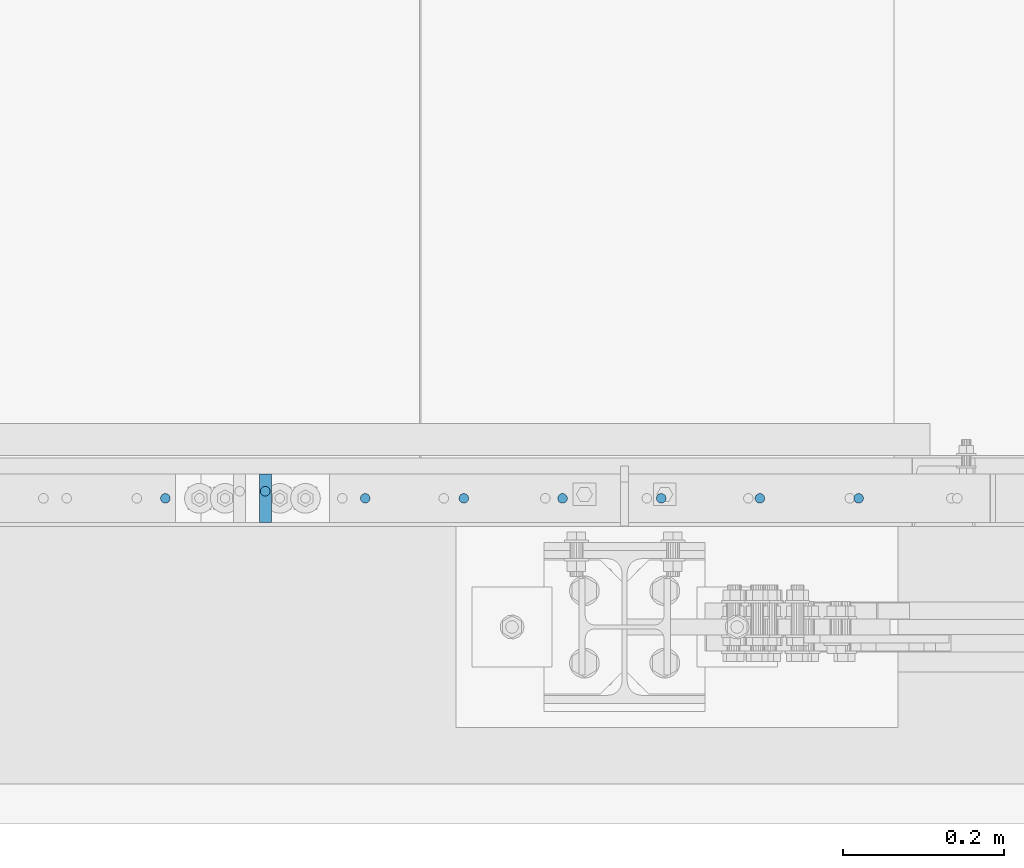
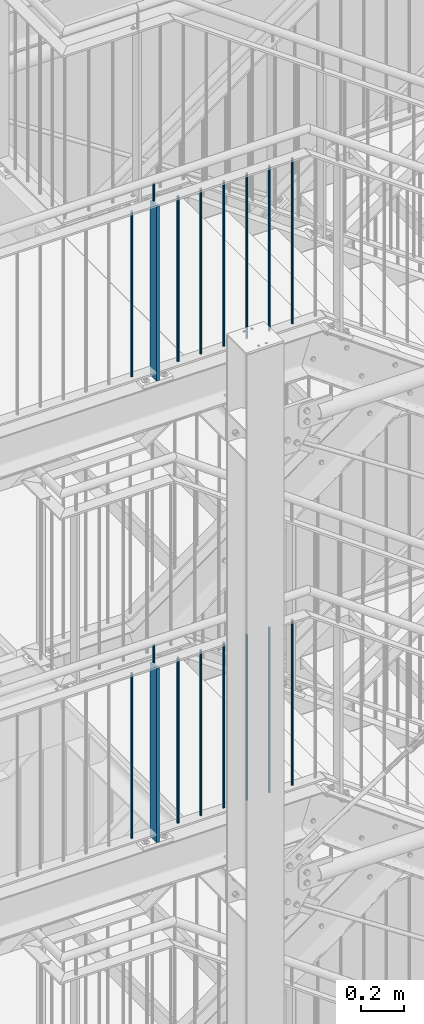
# One storey, part 9 of 831: 18 columns.
"""IFC2X3 building model written with IfcOpenShell, lengths in millimetres."""

from ifc_helpers import new_model, entity, si_unit, converted_unit, frame, origin, origin_with_axes, origin_2d, place, context, project, spatial, rectangle, circle, extrude, clip, halfspace, material, element, save


model = new_model("IFC2X3")

# Units and contexts
model_context = context("Model", 3, precision=1e-09, world=origin_with_axes())
ifc_project = project(units=[si_unit("LENGTHUNIT", "METRE", prefix="MILLI"), si_unit("AREAUNIT", "SQUARE_METRE"), si_unit("VOLUMEUNIT", "CUBIC_METRE"), converted_unit("PLANEANGLEUNIT", "DEGREE", entity("IfcPlaneAngleMeasure", 0.01745329), si_unit("PLANEANGLEUNIT", "RADIAN"), dimensions=[0, 0, 0, 0, 0, 0, 0])], contexts=[model_context])

# Site, building, storey
site_placement = place(None, origin_with_axes())
site = spatial("IfcSite", under=ifc_project, at=site_placement, Name="Site", CompositionType="ELEMENT")
building_placement = place(site_placement, origin_with_axes())
building = spatial("IfcBuilding", under=site, at=building_placement, Name="Struktur 1", CompositionType="ELEMENT")
storey_placement = place(building_placement, origin_with_axes())
storey = spatial("IfcBuildingStorey", under=building, at=storey_placement, Name="Default Storey", CompositionType="ELEMENT", Elevation=0.0)

# Columns
ifc_material = material(Name="S235JR")
column_1_placement = place(None, frame((4409.791688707, 4526.736971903, 16253.723292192), z_axis=(0.0, 0.0, 1.0), x_axis=(-1.0, 0.0, 0.0)))
element("IfcColumn", 1, at=column_1_placement, inside=storey, material=ifc_material, Name="Railing_Post_Landing#12", ObjectType="Railing_Post_Landing#12", context=model_context, shape_type="Clipping", body=[
    clip(clip(extrude(rectangle(XDim=15.0, YDim=60.0, at=origin_2d()), origin(), (0.0, 0.0, -1.0), 1070.646584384), halfspace(frame((4409.791688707, 4526.736971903, -1019.722292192), z_axis=(0.0, 0.0, 1.0), x_axis=(-1.0, 0.0, 0.0)), True)), halfspace(frame((4409.791688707, 4526.736971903, -30.924292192), z_axis=(0.0, 0.0, -1.0), x_axis=(1.0, 0.0, 0.0)), True)),
])
column_2_placement = place(None, frame((5147.791807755, 4526.736971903, 16236.285281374), z_axis=(0.0, 0.0, 1.0), x_axis=(-1.0, 0.0, 0.0)))
element("IfcColumn", 2, at=column_2_placement, inside=storey, material=ifc_material, Name="Railing_Picket_Landing#77", ObjectType="Railing_Picket_Landing#77", context=model_context, shape_type="Clipping", body=[
    clip(clip(extrude(circle(Radius=6.0, at=origin_2d()), origin(), (0.0, 0.0, -1.0), 965.770562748), halfspace(frame((5147.791807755, 4526.736971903, -13.486281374), z_axis=(0.0, 0.0, -1.0), x_axis=(1.0, 0.0, 0.0)), True)), halfspace(frame((5147.791807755, 4526.736971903, -952.284281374), z_axis=(0.0, 0.0, 1.0), x_axis=(-1.0, 0.0, 0.0)), True)),
])
column_3_placement = place(None, frame((5025.041783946, 4526.736971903, 16236.285281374), z_axis=(0.0, 0.0, 1.0), x_axis=(-1.0, 0.0, 0.0)))
element("IfcColumn", 3, at=column_3_placement, inside=storey, material=ifc_material, Name="Railing_Picket_Landing#78", ObjectType="Railing_Picket_Landing#78", context=model_context, shape_type="Clipping", body=[
    clip(clip(extrude(circle(Radius=6.0, at=origin_2d()), origin(), (0.0, 0.0, -1.0), 965.770562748), halfspace(frame((5025.041783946, 4526.736971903, -13.486281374), z_axis=(0.0, 0.0, -1.0), x_axis=(1.0, 0.0, 0.0)), True)), halfspace(frame((5025.041783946, 4526.736971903, -952.284281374), z_axis=(0.0, 0.0, 1.0), x_axis=(-1.0, 0.0, 0.0)), True)),
])
column_4_placement = place(None, frame((4902.291760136, 4526.736971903, 16236.285281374), z_axis=(0.0, 0.0, 1.0), x_axis=(-1.0, 0.0, 0.0)))
element("IfcColumn", 4, at=column_4_placement, inside=storey, material=ifc_material, Name="Railing_Picket_Landing#79", ObjectType="Railing_Picket_Landing#79", context=model_context, shape_type="Clipping", body=[
    clip(clip(extrude(circle(Radius=6.0, at=origin_2d()), origin(), (0.0, 0.0, -1.0), 965.770562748), halfspace(frame((4902.291760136, 4526.736971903, -13.486281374), z_axis=(0.0, 0.0, -1.0), x_axis=(1.0, 0.0, 0.0)), True)), halfspace(frame((4902.291760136, 4526.736971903, -952.284281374), z_axis=(0.0, 0.0, 1.0), x_axis=(-1.0, 0.0, 0.0)), True)),
])
column_5_placement = place(None, frame((4779.541736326, 4526.736971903, 16236.285281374), z_axis=(0.0, 0.0, 1.0), x_axis=(-1.0, 0.0, 0.0)))
element("IfcColumn", 5, at=column_5_placement, inside=storey, material=ifc_material, Name="Railing_Picket_Landing#80", ObjectType="Railing_Picket_Landing#80", context=model_context, shape_type="Clipping", body=[
    clip(clip(extrude(circle(Radius=6.0, at=origin_2d()), origin(), (0.0, 0.0, -1.0), 965.770562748), halfspace(frame((4779.541736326, 4526.736971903, -13.486281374), z_axis=(0.0, 0.0, -1.0), x_axis=(1.0, 0.0, 0.0)), True)), halfspace(frame((4779.541736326, 4526.736971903, -952.284281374), z_axis=(0.0, 0.0, 1.0), x_axis=(-1.0, 0.0, 0.0)), True)),
])
column_6_placement = place(None, frame((4656.791712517, 4526.736971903, 16236.285281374), z_axis=(0.0, 0.0, 1.0), x_axis=(-1.0, 0.0, 0.0)))
element("IfcColumn", 6, at=column_6_placement, inside=storey, material=ifc_material, Name="Railing_Picket_Landing#81", ObjectType="Railing_Picket_Landing#81", context=model_context, shape_type="Clipping", body=[
    clip(clip(extrude(circle(Radius=6.0, at=origin_2d()), origin(), (0.0, 0.0, -1.0), 965.770562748), halfspace(frame((4656.791712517, 4526.736971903, -13.486281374), z_axis=(0.0, 0.0, -1.0), x_axis=(1.0, 0.0, 0.0)), True)), halfspace(frame((4656.791712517, 4526.736971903, -952.284281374), z_axis=(0.0, 0.0, 1.0), x_axis=(-1.0, 0.0, 0.0)), True)),
])
column_7_placement = place(None, frame((4534.041688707, 4526.736971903, 16236.285281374), z_axis=(0.0, 0.0, 1.0), x_axis=(-1.0, 0.0, 0.0)))
element("IfcColumn", 7, at=column_7_placement, inside=storey, material=ifc_material, Name="Railing_Picket_Landing#82", ObjectType="Railing_Picket_Landing#82", context=model_context, shape_type="Clipping", body=[
    clip(clip(extrude(circle(Radius=6.0, at=origin_2d()), origin(), (0.0, 0.0, -1.0), 965.770562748), halfspace(frame((4534.041688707, 4526.736971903, -13.486281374), z_axis=(0.0, 0.0, -1.0), x_axis=(1.0, 0.0, 0.0)), True)), halfspace(frame((4534.041688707, 4526.736971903, -952.284281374), z_axis=(0.0, 0.0, 1.0), x_axis=(-1.0, 0.0, 0.0)), True)),
])
column_8_placement = place(None, frame((4285.541688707, 4526.736971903, 16236.285281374), z_axis=(0.0, 0.0, 1.0), x_axis=(-1.0, 0.0, 0.0)))
element("IfcColumn", 8, at=column_8_placement, inside=storey, material=ifc_material, Name="Railing_Picket_Landing#83", ObjectType="Railing_Picket_Landing#83", context=model_context, shape_type="Clipping", body=[
    clip(clip(extrude(circle(Radius=6.0, at=origin_2d()), origin(), (0.0, 0.0, -1.0), 965.770562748), halfspace(frame((4285.541688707, 4526.736971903, -13.486281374), z_axis=(0.0, 0.0, -1.0), x_axis=(1.0, 0.0, 0.0)), True)), halfspace(frame((4285.541688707, 4526.736971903, -952.284281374), z_axis=(0.0, 0.0, 1.0), x_axis=(-1.0, 0.0, 0.0)), True)),
])
column_9_placement = place(None, frame((4409.791688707, 4535.536971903, 16341.285281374), z_axis=(0.0, 0.0, 1.0), x_axis=(0.0, 1.0, 0.0)))
element("IfcColumn", 9, at=column_9_placement, inside=storey, material=ifc_material, Name="Bar#12", ObjectType="Bar#12", context=model_context, shape_type="Clipping", body=[
    clip(clip(extrude(circle(Radius=6.0, at=origin_2d()), origin(), (0.0, 0.0, -1.0), 116.970562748), halfspace(frame((-4535.536971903, 4409.791688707, -8.486281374), z_axis=(0.0, 0.0, -1.0), x_axis=(0.0, 1.0, 0.0)), True)), halfspace(frame((-4535.536971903, 4409.791688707, -108.484281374), z_axis=(0.0, 0.0, 1.0), x_axis=(0.0, -1.0, 0.0)), True)),
])
column_10_placement = place(None, frame((4409.791688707, 4526.736971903, 18873.723292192), z_axis=(0.0, 0.0, 1.0), x_axis=(-1.0, 0.0, 0.0)))
element("IfcColumn", 10, at=column_10_placement, inside=storey, material=ifc_material, Name="Railing_Post_Landing#12", ObjectType="Railing_Post_Landing#12", context=model_context, shape_type="Clipping", body=[
    clip(clip(extrude(rectangle(XDim=15.0, YDim=60.0, at=origin_2d()), origin(), (0.0, 0.0, -1.0), 1070.646584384), halfspace(frame((4409.791688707, 4526.736971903, -1019.722292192), z_axis=(0.0, 0.0, 1.0), x_axis=(-1.0, 0.0, 0.0)), True)), halfspace(frame((4409.791688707, 4526.736971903, -30.924292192), z_axis=(0.0, 0.0, -1.0), x_axis=(1.0, 0.0, 0.0)), True)),
])
column_11_placement = place(None, frame((5147.791807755, 4526.736971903, 18856.285281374), z_axis=(0.0, 0.0, 1.0), x_axis=(-1.0, 0.0, 0.0)))
element("IfcColumn", 11, at=column_11_placement, inside=storey, material=ifc_material, Name="Railing_Picket_Landing#77", ObjectType="Railing_Picket_Landing#77", context=model_context, shape_type="Clipping", body=[
    clip(clip(extrude(circle(Radius=6.0, at=origin_2d()), origin(), (0.0, 0.0, -1.0), 965.770562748), halfspace(frame((5147.791807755, 4526.736971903, -13.486281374), z_axis=(0.0, 0.0, -1.0), x_axis=(1.0, 0.0, 0.0)), True)), halfspace(frame((5147.791807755, 4526.736971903, -952.284281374), z_axis=(0.0, 0.0, 1.0), x_axis=(-1.0, 0.0, 0.0)), True)),
])
column_12_placement = place(None, frame((5025.041783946, 4526.736971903, 18856.285281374), z_axis=(0.0, 0.0, 1.0), x_axis=(-1.0, 0.0, 0.0)))
element("IfcColumn", 12, at=column_12_placement, inside=storey, material=ifc_material, Name="Railing_Picket_Landing#78", ObjectType="Railing_Picket_Landing#78", context=model_context, shape_type="Clipping", body=[
    clip(clip(extrude(circle(Radius=6.0, at=origin_2d()), origin(), (0.0, 0.0, -1.0), 965.770562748), halfspace(frame((5025.041783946, 4526.736971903, -13.486281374), z_axis=(0.0, 0.0, -1.0), x_axis=(1.0, 0.0, 0.0)), True)), halfspace(frame((5025.041783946, 4526.736971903, -952.284281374), z_axis=(0.0, 0.0, 1.0), x_axis=(-1.0, 0.0, 0.0)), True)),
])
column_13_placement = place(None, frame((4902.291760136, 4526.736971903, 18856.285281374), z_axis=(0.0, 0.0, 1.0), x_axis=(-1.0, 0.0, 0.0)))
element("IfcColumn", 13, at=column_13_placement, inside=storey, material=ifc_material, Name="Railing_Picket_Landing#79", ObjectType="Railing_Picket_Landing#79", context=model_context, shape_type="Clipping", body=[
    clip(clip(extrude(circle(Radius=6.0, at=origin_2d()), origin(), (0.0, 0.0, -1.0), 965.770562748), halfspace(frame((4902.291760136, 4526.736971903, -13.486281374), z_axis=(0.0, 0.0, -1.0), x_axis=(1.0, 0.0, 0.0)), True)), halfspace(frame((4902.291760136, 4526.736971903, -952.284281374), z_axis=(0.0, 0.0, 1.0), x_axis=(-1.0, 0.0, 0.0)), True)),
])
column_14_placement = place(None, frame((4779.541736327, 4526.736971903, 18856.285281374), z_axis=(0.0, 0.0, 1.0), x_axis=(-1.0, 0.0, 0.0)))
element("IfcColumn", 14, at=column_14_placement, inside=storey, material=ifc_material, Name="Railing_Picket_Landing#80", ObjectType="Railing_Picket_Landing#80", context=model_context, shape_type="Clipping", body=[
    clip(clip(extrude(circle(Radius=6.0, at=origin_2d()), origin(), (0.0, 0.0, -1.0), 965.770562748), halfspace(frame((4779.541736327, 4526.736971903, -13.486281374), z_axis=(0.0, 0.0, -1.0), x_axis=(1.0, 0.0, 0.0)), True)), halfspace(frame((4779.541736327, 4526.736971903, -952.284281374), z_axis=(0.0, 0.0, 1.0), x_axis=(-1.0, 0.0, 0.0)), True)),
])
column_15_placement = place(None, frame((4656.791712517, 4526.736971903, 18856.285281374), z_axis=(0.0, 0.0, 1.0), x_axis=(-1.0, 0.0, 0.0)))
element("IfcColumn", 15, at=column_15_placement, inside=storey, material=ifc_material, Name="Railing_Picket_Landing#81", ObjectType="Railing_Picket_Landing#81", context=model_context, shape_type="Clipping", body=[
    clip(clip(extrude(circle(Radius=6.0, at=origin_2d()), origin(), (0.0, 0.0, -1.0), 965.770562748), halfspace(frame((4656.791712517, 4526.736971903, -13.486281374), z_axis=(0.0, 0.0, -1.0), x_axis=(1.0, 0.0, 0.0)), True)), halfspace(frame((4656.791712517, 4526.736971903, -952.284281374), z_axis=(0.0, 0.0, 1.0), x_axis=(-1.0, 0.0, 0.0)), True)),
])
column_16_placement = place(None, frame((4534.041688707, 4526.736971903, 18856.285281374), z_axis=(0.0, 0.0, 1.0), x_axis=(-1.0, 0.0, 0.0)))
element("IfcColumn", 16, at=column_16_placement, inside=storey, material=ifc_material, Name="Railing_Picket_Landing#82", ObjectType="Railing_Picket_Landing#82", context=model_context, shape_type="Clipping", body=[
    clip(clip(extrude(circle(Radius=6.0, at=origin_2d()), origin(), (0.0, 0.0, -1.0), 965.770562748), halfspace(frame((4534.041688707, 4526.736971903, -13.486281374), z_axis=(0.0, 0.0, -1.0), x_axis=(1.0, 0.0, 0.0)), True)), halfspace(frame((4534.041688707, 4526.736971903, -952.284281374), z_axis=(0.0, 0.0, 1.0), x_axis=(-1.0, 0.0, 0.0)), True)),
])
column_17_placement = place(None, frame((4285.541688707, 4526.736971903, 18856.285281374), z_axis=(0.0, 0.0, 1.0), x_axis=(-1.0, 0.0, 0.0)))
element("IfcColumn", 17, at=column_17_placement, inside=storey, material=ifc_material, Name="Railing_Picket_Landing#83", ObjectType="Railing_Picket_Landing#83", context=model_context, shape_type="Clipping", body=[
    clip(clip(extrude(circle(Radius=6.0, at=origin_2d()), origin(), (0.0, 0.0, -1.0), 965.770562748), halfspace(frame((4285.541688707, 4526.736971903, -13.486281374), z_axis=(0.0, 0.0, -1.0), x_axis=(1.0, 0.0, 0.0)), True)), halfspace(frame((4285.541688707, 4526.736971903, -952.284281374), z_axis=(0.0, 0.0, 1.0), x_axis=(-1.0, 0.0, 0.0)), True)),
])
column_18_placement = place(None, frame((4409.791688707, 4535.536971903, 18961.285281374), z_axis=(0.0, 0.0, 1.0), x_axis=(0.0, 1.0, 0.0)))
element("IfcColumn", 18, at=column_18_placement, inside=storey, material=ifc_material, Name="Bar#12", ObjectType="Bar#12", context=model_context, shape_type="Clipping", body=[
    clip(clip(extrude(circle(Radius=6.0, at=origin_2d()), origin(), (0.0, 0.0, -1.0), 116.970562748), halfspace(frame((-4535.536971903, 4409.791688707, -8.486281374), z_axis=(0.0, 0.0, -1.0), x_axis=(0.0, 1.0, 0.0)), True)), halfspace(frame((-4535.536971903, 4409.791688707, -108.484281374), z_axis=(0.0, 0.0, 1.0), x_axis=(0.0, -1.0, 0.0)), True)),
])

save(model, "model.ifc")
